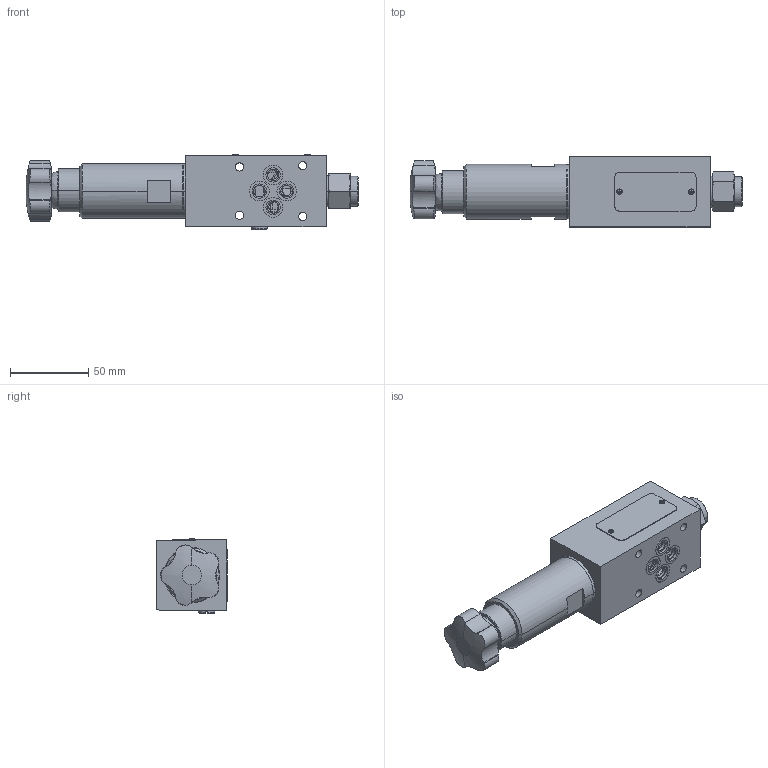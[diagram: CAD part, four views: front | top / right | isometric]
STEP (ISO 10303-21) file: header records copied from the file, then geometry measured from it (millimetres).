
FILE_DESCRIPTION((''),'2;1');
FILE_NAME('1000328949_ASM','2022-01-18T',('l.soukupova'),(''),'PRO/ENGINEER BY PARAMETRIC TECHNOLOGY CORPORATION, 2015440','PRO/ENGINEER BY PARAMETRIC TECHNOLOGY CORPORATION, 2015440','');
FILE_SCHEMA(('AUTOMOTIVE_DESIGN { 1 0 10303 214 1 1 1 1 }'));
Products named in the file (34): 32885600_AF0; 30431101_AF0; 517_0120_AF0; VSTI_1_4_ED_156253; 517_0450_AF0; 1000228160; 19906000; DIN_5401_D5_203559; 1000302442_ASM; 1000228215; DIN_988_17X0_2_202585; 19905200; RD_LABEL_25X52_159703; AF_1932_16485; DKAR00012_N70; BBP80B123_199068; BBP80B014_201580; ORAR00123_199067; ORAR00014_201300; ISO_4035_M14X1_88_ZN; CSN_022925_12; 517_0460; KOULE_5_AF0; 517_0470_AF0; 20277500_AF0; OR1500600_201366; 1000294966; LOBE_KNOBS_WITH_SQUARE_HOLE_VCR; VICKO-RUKOJET-VPN; CSN_021702B_4_3; CSN_021131_M4X8; 1000304818; 1000304725_AF0_ASM; 1000328949_ASM
Assembly tree (37 placements, depth 4):
  1000328949_ASM
    1000304725_AF0_ASM
      32885600_AF0
      30431101_AF0
      517_0120_AF0
      VSTI_1_4_ED_156253
      517_0450_AF0
      1000228160
      1000302442_ASM
        19906000
        DIN_5401_D5_203559
      1000228215
      DIN_988_17X0_2_202585
      19905200
      RD_LABEL_25X52_159703
      AF_1932_16485  x2
      DKAR00012_N70  x4
      BBP80B123_199068
      BBP80B014_201580
      ORAR00123_199067
      ORAR00014_201300
      ISO_4035_M14X1_88_ZN
      CSN_022925_12
      517_0460
      KOULE_5_AF0
      517_0470_AF0
      20277500_AF0
      OR1500600_201366
      1000294966
      LOBE_KNOBS_WITH_SQUARE_HOLE_VCR
      VICKO-RUKOJET-VPN
      CSN_021702B_4_3
      CSN_021131_M4X8
      1000304818
Bounding box: 212.4 x 45.28 x 48.03 mm (x, y, z)
Volume: 215915.4 mm3; surface area: 103730.4 mm2
Topology: 33 solids, 47 shells, 1005 faces, 2423 edges, 1624 vertices
Faces by surface type: cylinder 393, plane 256, cone 140, torus 110, bspline 76, sphere 30
Entity records: 64629 total; most frequent: CARTESIAN_POINT 27936, DIRECTION 5272, ORIENTED_EDGE 4418, PRESENTATION_STYLE_ASSIGNMENT 2995, STYLED_ITEM 2939, CURVE_STYLE 2394, EDGE_CURVE 2238, AXIS2_PLACEMENT_3D 2193
